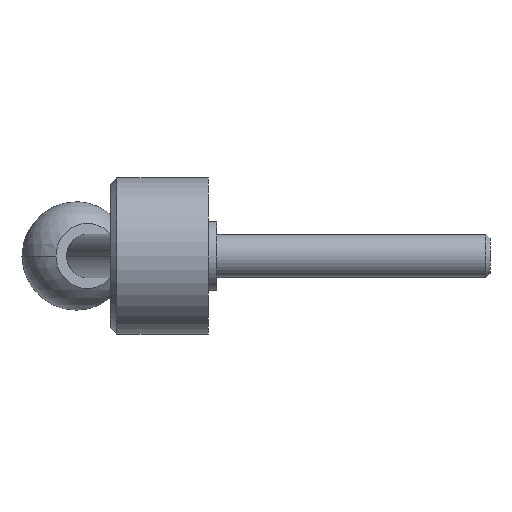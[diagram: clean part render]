
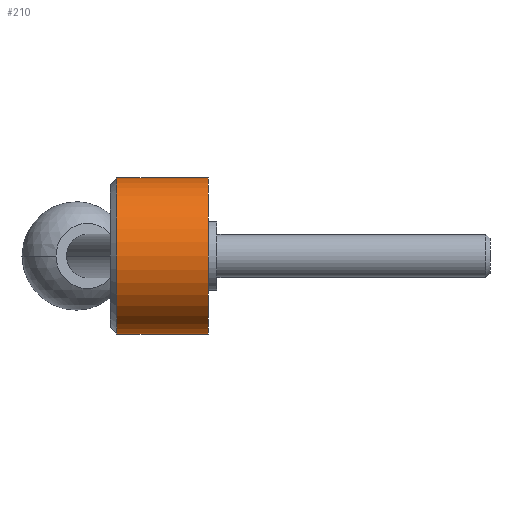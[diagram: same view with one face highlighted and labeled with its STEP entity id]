
A CAD part, left-side view. The second image highlights one B-rep face of the part: STEP entity #210.
In plain terms, the highlighted cylindrical face has radius 18 mm (diameter 36 mm), a partial arc.
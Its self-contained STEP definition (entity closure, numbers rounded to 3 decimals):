
#27 = DIRECTION ( 'NONE',  ( 0., 0., 1. ) ) ;
#37 = DIRECTION ( 'NONE',  ( 0., -1., 0. ) ) ;
#89 = EDGE_CURVE ( 'NONE', #732, #850, #846, .T. ) ;
#126 = ORIENTED_EDGE ( 'NONE', *, *, #396, .T. ) ;
#130 = DIRECTION ( 'NONE',  ( 0., -1., 0. ) ) ;
#132 = CARTESIAN_POINT ( 'NONE',  ( 0., 21.1, 18. ) ) ;
#152 = DIRECTION ( 'NONE',  ( 0., 0., -1. ) ) ;
#183 = DIRECTION ( 'NONE',  ( 0., 0., -1. ) ) ;
#210 = ADVANCED_FACE ( 'NONE', ( #874 ), #761, .T. ) ;
#218 = VERTEX_POINT ( 'NONE', #539 ) ;
#237 = CARTESIAN_POINT ( 'NONE',  ( 0., 21.1, 0. ) ) ;
#242 = DIRECTION ( 'NONE',  ( 0., -1., 0. ) ) ;
#262 = CARTESIAN_POINT ( 'NONE',  ( 0., 0., 0. ) ) ;
#269 = DIRECTION ( 'NONE',  ( 0., -1., 0. ) ) ;
#274 = CARTESIAN_POINT ( 'NONE',  ( 0., 0., 0. ) ) ;
#287 = CIRCLE ( 'NONE', #782, 18. ) ;
#296 = CARTESIAN_POINT ( 'NONE',  ( 0., 0., -18. ) ) ;
#304 = CARTESIAN_POINT ( 'NONE',  ( 0., 0., 18. ) ) ;
#307 = ORIENTED_EDGE ( 'NONE', *, *, #646, .F. ) ;
#396 = EDGE_CURVE ( 'NONE', #218, #705, #629, .T. ) ;
#432 = EDGE_LOOP ( 'NONE', ( #762, #643, #126, #307 ) ) ;
#539 = CARTESIAN_POINT ( 'NONE',  ( 0., 21.1, -18. ) ) ;
#560 = DIRECTION ( 'NONE',  ( 0., -1., 0. ) ) ;
#606 = VECTOR ( 'NONE', #560, 1000. ) ;
#624 = CARTESIAN_POINT ( 'NONE',  ( 0., 0., 18. ) ) ;
#629 = LINE ( 'NONE', #296, #606 ) ;
#643 = ORIENTED_EDGE ( 'NONE', *, *, #872, .T. ) ;
#646 = EDGE_CURVE ( 'NONE', #850, #705, #287, .T. ) ;
#647 = AXIS2_PLACEMENT_3D ( 'NONE', #237, #37, #27 ) ;
#691 = VECTOR ( 'NONE', #242, 1000. ) ;
#705 = VERTEX_POINT ( 'NONE', #813 ) ;
#716 = CIRCLE ( 'NONE', #647, 18. ) ;
#732 = VERTEX_POINT ( 'NONE', #132 ) ;
#749 = AXIS2_PLACEMENT_3D ( 'NONE', #274, #269, #152 ) ;
#761 = CYLINDRICAL_SURFACE ( 'NONE', #749, 18. ) ;
#762 = ORIENTED_EDGE ( 'NONE', *, *, #89, .F. ) ;
#782 = AXIS2_PLACEMENT_3D ( 'NONE', #262, #130, #183 ) ;
#813 = CARTESIAN_POINT ( 'NONE',  ( 0., 0., -18. ) ) ;
#846 = LINE ( 'NONE', #304, #691 ) ;
#850 = VERTEX_POINT ( 'NONE', #624 ) ;
#872 = EDGE_CURVE ( 'NONE', #732, #218, #716, .T. ) ;
#874 = FACE_OUTER_BOUND ( 'NONE', #432, .T. ) ;
